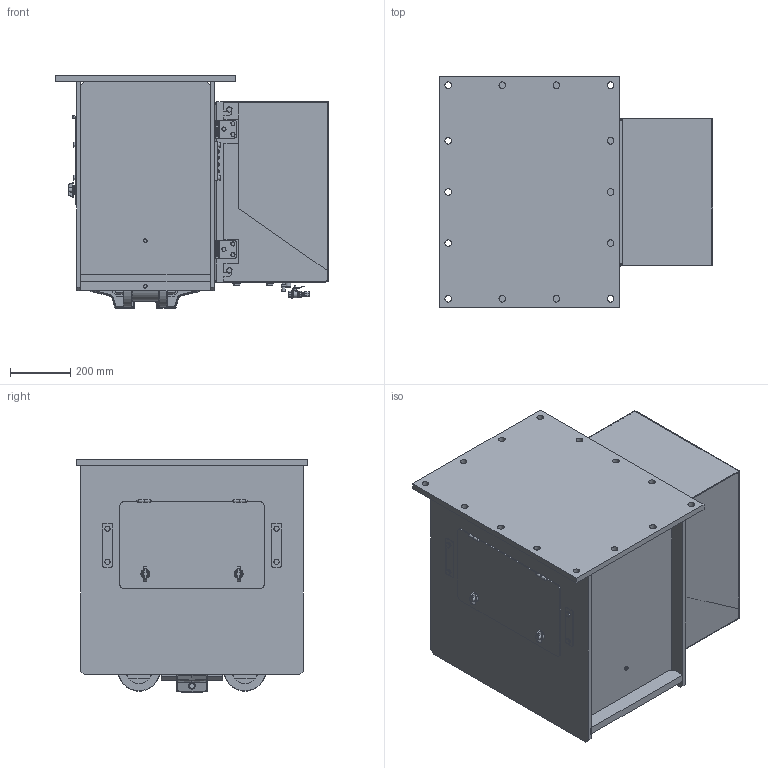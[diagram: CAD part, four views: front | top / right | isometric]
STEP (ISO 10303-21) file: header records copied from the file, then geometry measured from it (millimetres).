
FILE_DESCRIPTION(/* description */ (''),/* implementation_level */ '2;1');
FILE_NAME(/* name */ 'C:\Vault_Workspace\HILLMAR\HILLMAR PRODUCTION\02 STORM BRAKES\0100-2\01002081 CXHV-TS-060-100-LE\SM3D-CXHV-TS-060-100\48633.stp',/* time_stamp */ '2016-10-24T10:50:10+02:00',/* author */ ('vlakrc01'),/* organization */ (''),/* preprocessor_version */ 'ST-DEVELOPER v16.1',/* originating_system */ 'Autodesk Inventor 2016',/* authorisation */ '');
FILE_SCHEMA (('AUTOMOTIVE_DESIGN { 1 0 10303 214 3 1 1 }'));
Products named in the file (1): 48633
Bounding box: 910.2 x 770 x 774.44 mm (x, y, z)
Volume: 53993078 mm3; surface area: 9036798.9 mm2
Topology: 6 solids, 8 shells, 2790 faces, 6813 edges, 4157 vertices
Faces by surface type: plane 1324, cylinder 717, cone 381, bspline 140, sphere 119, torus 109
Full cylindrical faces by diameter (mm): 5.058 x1, 5.5 x2, 7.323 x12, 8 x8, 8.767 x1, 9.188 x8, 9.246 x2, 9.8 x2, 9.881 x4, 10 x12, 10.109 x2, 10.557 x1, 11.053 x4, 11.113 x1, 11.4 x12, 12 x15, 13 x2, 13.067 x1, 14.224 x1, 15.4 x8, 15.72 x1, 15.9 x2, 16 x4, 17.2 x8, 17.4 x1, 18 x6, 19.063 x1, 20 x1, 22 x14, 22.4 x2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
Entity records: 84239 total; most frequent: CARTESIAN_POINT 18642, DIRECTION 13183, ORIENTED_EDGE 12822, EDGE_CURVE 6410, AXIS2_PLACEMENT_3D 4903, VERTEX_POINT 4048, LINE 3377, VECTOR 3377
